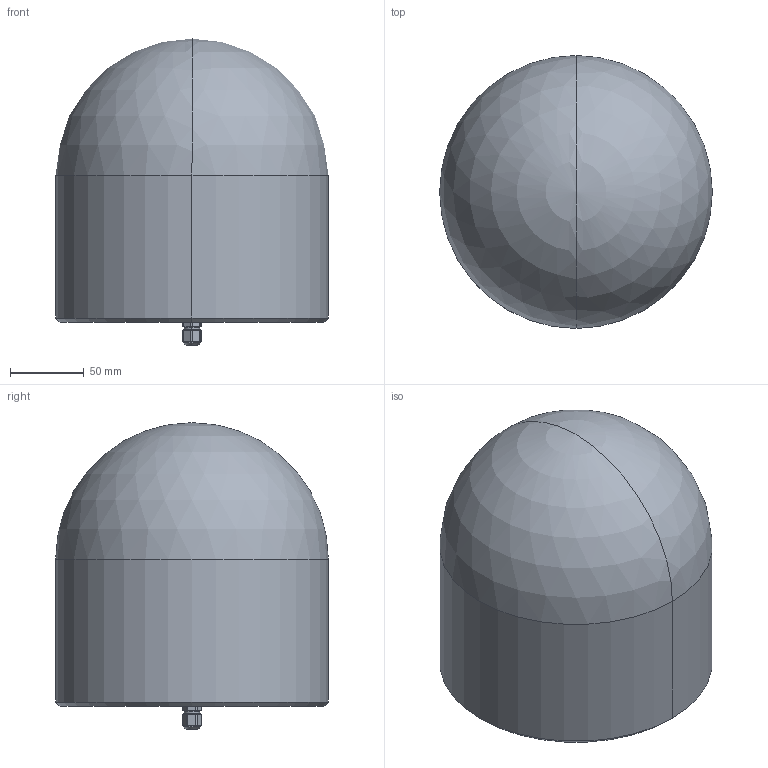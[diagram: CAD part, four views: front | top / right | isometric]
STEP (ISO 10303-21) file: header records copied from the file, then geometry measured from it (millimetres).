
FILE_DESCRIPTION((''),'2;1');
FILE_NAME('ASM0011_ASM','2025-12-30T15:43:04',('28740194'),(''),'CREO PARAMETRIC BY PTC INC, 2024063','CREO PARAMETRIC BY PTC INC, 2024063','');
FILE_SCHEMA(('CONFIG_CONTROL_DESIGN'));
Length unit declared in the file: millimetre
Products named in the file (3): KLD900; 1572_08_035_2_5; ASM0011_ASM
Assembly tree (2 placements, depth 2):
  ASM0011_ASM
    KLD900
    1572_08_035_2_5
Bounding box: 185 x 185 x 208 mm (x, y, z)
Volume: 4344901.9 mm3; surface area: 139608.6 mm2
Topology: 2 solids, 4 shells, 94 faces, 211 edges, 131 vertices
Faces by surface type: cylinder 38, plane 27, cone 17, torus 10, sphere 2
Entity records: 2759 total; most frequent: DIRECTION 517, CARTESIAN_POINT 489, ORIENTED_EDGE 414, AXIS2_PLACEMENT_3D 219, EDGE_CURVE 209, VERTEX_POINT 131, CIRCLE 118, EDGE_LOOP 108
